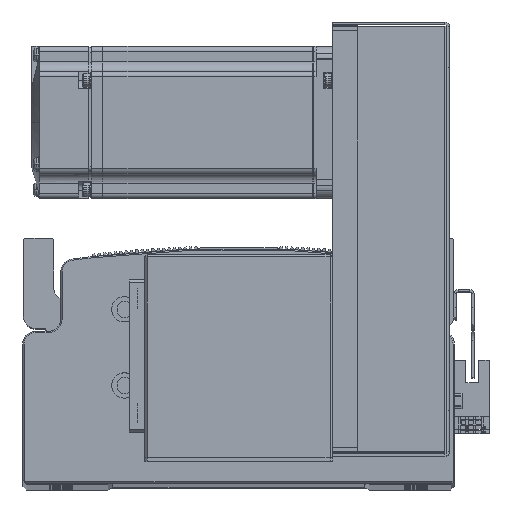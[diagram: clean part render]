
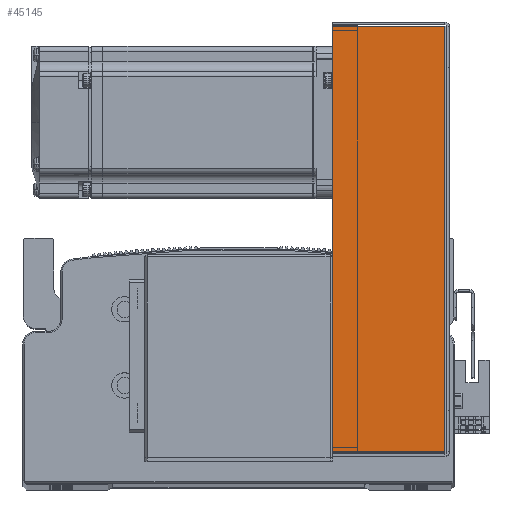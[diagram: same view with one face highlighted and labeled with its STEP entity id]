
A CAD part, top view. The second image highlights one B-rep face of the part: STEP entity #45145.
In plain terms, the highlighted planar face has unit normal (0, 0, 1).
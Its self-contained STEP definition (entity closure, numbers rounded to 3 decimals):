
#3079 = EDGE_LOOP ( 'NONE', ( #45089, #45048, #45334, #45075 ) ) ;
#9432 = EDGE_CURVE ( 'NONE', #40932, #40994, #75888, .T. ) ;
#9479 = EDGE_CURVE ( 'NONE', #40996, #40988, #76013, .T. ) ;
#9516 = EDGE_CURVE ( 'NONE', #40988, #40994, #75983, .T. ) ;
#9647 = EDGE_CURVE ( 'NONE', #40996, #40932, #76086, .T. ) ;
#10367 = FACE_OUTER_BOUND ( 'NONE', #3079, .T. ) ;
#13419 = AXIS2_PLACEMENT_3D ( 'NONE', #60754, #60773, #60738 ) ;
#32555 = CARTESIAN_POINT ( 'NONE',  ( -83.793, 0., 40.5 ) ) ;
#32582 = DIRECTION ( 'NONE',  ( 0., 1., 0. ) ) ;
#32640 = CARTESIAN_POINT ( 'NONE',  ( 83.793, 0., 40.5 ) ) ;
#32662 = DIRECTION ( 'NONE',  ( 0., 1., 0. ) ) ;
#32751 = CARTESIAN_POINT ( 'NONE',  ( -84.5, 45., 40.5 ) ) ;
#32774 = DIRECTION ( 'NONE',  ( -1., 0., 0. ) ) ;
#33075 = CARTESIAN_POINT ( 'NONE',  ( 0., 0.737, 40.5 ) ) ;
#33115 = DIRECTION ( 'NONE',  ( -1., 0., 0. ) ) ;
#40932 = VERTEX_POINT ( 'NONE', #60270 ) ;
#40988 = VERTEX_POINT ( 'NONE', #60212 ) ;
#40994 = VERTEX_POINT ( 'NONE', #60248 ) ;
#40996 = VERTEX_POINT ( 'NONE', #60239 ) ;
#45048 = ORIENTED_EDGE ( 'NONE', *, *, #9479, .T. ) ;
#45075 = ORIENTED_EDGE ( 'NONE', *, *, #9432, .F. ) ;
#45089 = ORIENTED_EDGE ( 'NONE', *, *, #9647, .F. ) ;
#45145 = ADVANCED_FACE ( 'NONE', ( #10367 ), #60767, .F. ) ;
#45334 = ORIENTED_EDGE ( 'NONE', *, *, #9516, .T. ) ;
#60212 = CARTESIAN_POINT ( 'NONE',  ( 83.793, 45., 40.5 ) ) ;
#60239 = CARTESIAN_POINT ( 'NONE',  ( 83.793, 0.737, 40.5 ) ) ;
#60248 = CARTESIAN_POINT ( 'NONE',  ( -83.793, 45., 40.5 ) ) ;
#60270 = CARTESIAN_POINT ( 'NONE',  ( -83.793, 0.737, 40.5 ) ) ;
#60738 = DIRECTION ( 'NONE',  ( -1., 0., 0. ) ) ;
#60754 = CARTESIAN_POINT ( 'NONE',  ( 0., 0., 40.5 ) ) ;
#60767 = PLANE ( 'NONE',  #13419 ) ;
#60773 = DIRECTION ( 'NONE',  ( 0., 0., -1. ) ) ;
#75888 = LINE ( 'NONE', #32555, #75910 ) ;
#75910 = VECTOR ( 'NONE', #32582, 1000. ) ;
#75974 = VECTOR ( 'NONE', #32774, 1000. ) ;
#75983 = LINE ( 'NONE', #32751, #75974 ) ;
#75998 = VECTOR ( 'NONE', #32662, 1000. ) ;
#76013 = LINE ( 'NONE', #32640, #75998 ) ;
#76086 = LINE ( 'NONE', #33075, #76087 ) ;
#76087 = VECTOR ( 'NONE', #33115, 1000. ) ;
